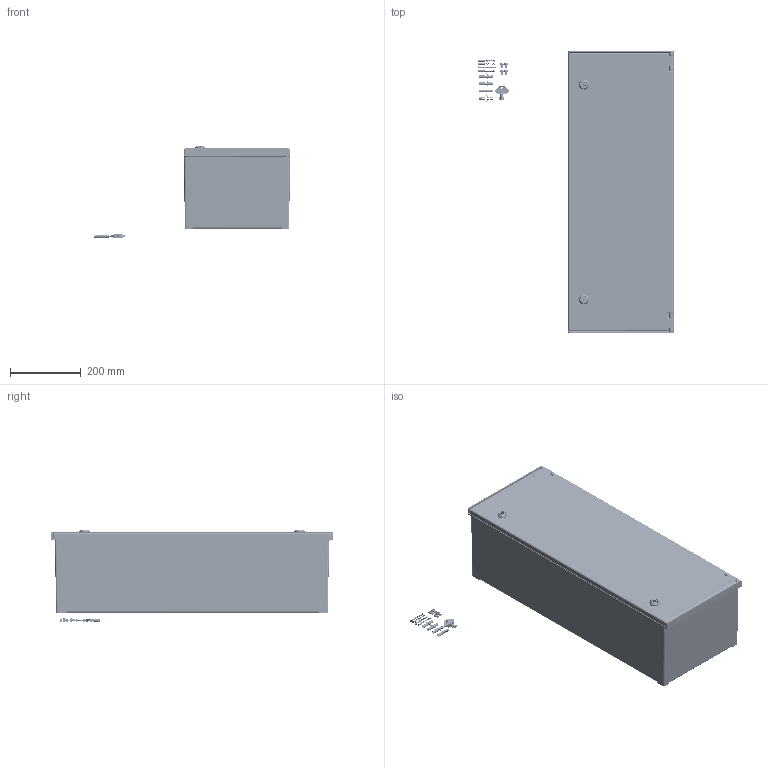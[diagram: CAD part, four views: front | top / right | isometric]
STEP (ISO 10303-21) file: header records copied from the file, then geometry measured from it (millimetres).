
FILE_DESCRIPTION(/* description */ (''),/* implementation_level */ '2;1');
FILE_NAME(/* name */ 'C:\Users\ahermoni\Desktop\42183200_PS 832.stp',/* time_stamp */ '2019-09-12T13:16:28+02:00',/* author */ ('ahermoni'),/* organization */ ('Fa. Bopla'),/* preprocessor_version */ 'ST-DEVELOPER v17.2',/* originating_system */ 'Autodesk Inventor 2019',/* authorisation */ '');
FILE_SCHEMA (('AUTOMOTIVE_DESIGN { 1 0 10303 214 3 1 1 }'));
Products named in the file (17): Polysafe PS 832; Unterteil 1; Oberteil; Tür 1; Halter; Schraube4; Scheibe; Schloss; Mutter; Rahmen; Zubehör; Schraube2; Dübel; Schlüssel; Schraube1; Achse; Gewindeeinsatz M6x8
Assembly tree (34 placements, depth 3):
  Polysafe PS 832
    Unterteil 1
    Oberteil
      Tür 1
      Halter  x2
      Schraube4  x2
      Scheibe  x2
      Schloss  x2
      Mutter  x2
      Rahmen
    Zubehör
      Schraube2  x4
      Dübel  x4
      Schlüssel
      Schraube1  x4
    Achse  x2
    Gewindeeinsatz M6x8  x4
Bounding box: 555.15 x 800 x 262.77 mm (x, y, z)
Volume: 3562696.4 mm3; surface area: 2295368.5 mm2
Topology: 40 solids, 52 shells, 5784 faces, 14854 edges, 9321 vertices
Faces by surface type: cylinder 2069, plane 1885, bspline 1070, cone 382, torus 244, sphere 134
Full cylindrical faces by diameter (mm): 2 x2, 2.62 x56, 3 x30, 3.7 x2, 4 x7, 4.2 x4, 4.5 x6, 5 x8, 5.4 x4, 6 x11, 6.55 x6, 7 x4, 7.3 x12, 8 x4, 8.5 x2, 9 x1, 10 x12, 10.2 x2, 12 x4, 14 x2, 14.2 x2, 18.5 x2, 19.8 x2, 21 x2, 22 x4, 23 x2, 27 x2, 29 x4
Entity records: 223601 total; most frequent: CARTESIAN_POINT 115708, ORIENTED_EDGE 22993, DIRECTION 21908, EDGE_CURVE 11502, AXIS2_PLACEMENT_3D 8173, VERTEX_POINT 7292, LINE 5562, VECTOR 5562
